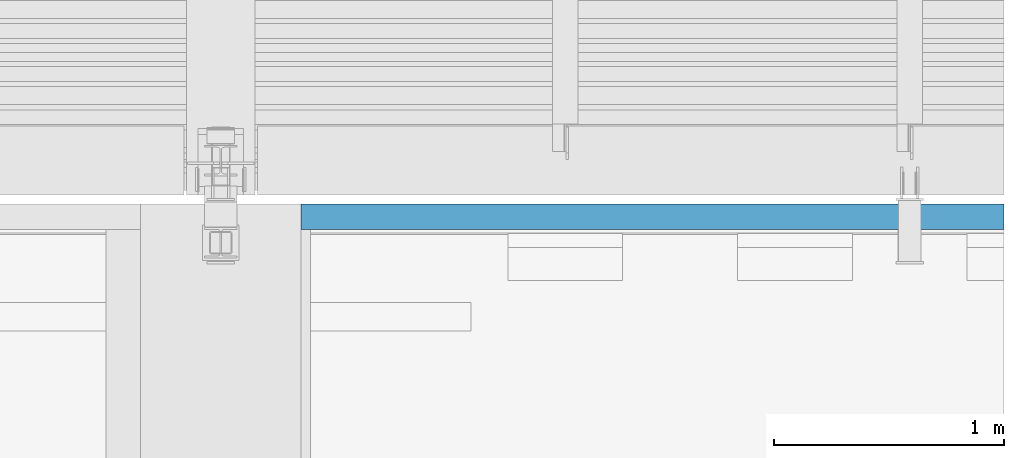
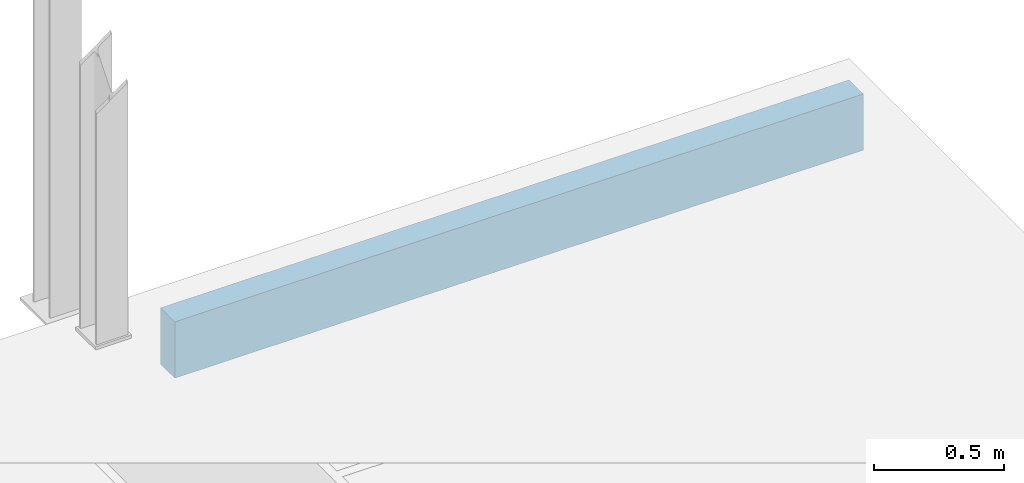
# One storey, part 34 of 34: 1 slab.
"""IFC2X3 building model written with IfcOpenShell, lengths in millimetres."""

from ifc_helpers import new_model, entity, si_unit, converted_unit, derived_unit, direction, frame, origin_with_axes, place, context, subcontext, project, spatial, faceted_brep, type_object, element, save


model = new_model("IFC2X3")

# Units and contexts
model_context = context("Model", 3, precision=0.01, world=frame((0.0, 4.29681676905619e-09, 0.0)), true_north=direction((4.01073788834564e-13, 1.0)))
plan_context = context("Plan", 3, precision=0.01, world=frame((0.0, 4.29681676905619e-09, 0.0)), true_north=direction((4.01073788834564e-13, 1.0)))
body_context = subcontext(model_context, "Body", "Model", "MODEL_VIEW")
ifc_project = project(units=[converted_unit("PLANEANGLEUNIT", "DEGREE", entity("IfcPositiveLengthMeasure", 0.0174532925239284), si_unit("PLANEANGLEUNIT", "RADIAN"), dimensions=[0, 0, 0, 0, 0, 0, 0]), si_unit("AREAUNIT", "SQUARE_METRE"), si_unit("LENGTHUNIT", "METRE", prefix="MILLI"), si_unit("MASSUNIT", "GRAM", prefix="KILO"), si_unit("POWERUNIT", "WATT"), si_unit("PRESSUREUNIT", "PASCAL"), si_unit("FORCEUNIT", "NEWTON", prefix="KILO"), si_unit("ELECTRICVOLTAGEUNIT", "VOLT"), si_unit("ELECTRICCURRENTUNIT", "AMPERE"), si_unit("THERMODYNAMICTEMPERATUREUNIT", "DEGREE_CELSIUS"), si_unit("TIMEUNIT", "SECOND"), si_unit("VOLUMEUNIT", "CUBIC_METRE"), derived_unit("LINEARVELOCITYUNIT", [(si_unit("LENGTHUNIT", "METRE"), 1), (si_unit("TIMEUNIT", "SECOND"), -1)]), derived_unit("VOLUMETRICFLOWRATEUNIT", [(si_unit("VOLUMEUNIT", "CUBIC_METRE"), 1), (si_unit("TIMEUNIT", "SECOND"), -1)]), derived_unit("THERMALTRANSMITTANCEUNIT", [(si_unit("POWERUNIT", "WATT"), 1), (si_unit("THERMODYNAMICTEMPERATUREUNIT", "KELVIN"), -1), (si_unit("AREAUNIT", "SQUARE_METRE"), -1)]), derived_unit("SOUNDPRESSUREUNIT", [(si_unit("PRESSUREUNIT", "PASCAL"), 1)])], contexts=[model_context, plan_context])

# Site, building, storey
site_placement = place(None, frame((0.0, -4.29681676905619e-09, 0.0), z_axis=(0.0, 0.0, 1.0), x_axis=(1.0, 0.0, 0.0)))
site = spatial("IfcSite", under=ifc_project, at=site_placement, Name="Gardermoen", CompositionType="ELEMENT")
building_placement = place(site_placement, frame((0.0, 4.29681676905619e-09, 0.0), z_axis=(0.0, 0.0, 1.0), x_axis=(1.0, 0.0, 0.0)))
building = spatial("IfcBuilding", under=site, at=building_placement, Name="TH", CompositionType="ELEMENT")
storey_placement = place(building_placement, origin_with_axes())
storey = spatial("IfcBuildingStorey", under=building, at=storey_placement, Name="F", CompositionType="ELEMENT", Elevation=0.0)

# Slab
slab_type = type_object("IfcSlabType", Name="265*110", PredefinedType="NOTDEFINED")
slab_placement = place(storey_placement, frame((915649.999531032, 484809.9965625, 209897.5), z_axis=(6.61744490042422e-24, 0.0, 1.0), x_axis=(-1.0, 0.0, 6.61744490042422e-24)))
element("IfcSlab", 1, at=slab_placement, inside=storey, type_object=slab_type, Name="PÅSTØP", ObjectType="265*110", PredefinedType="FLOOR", context=body_context, shape_type="Brep", body=[
    faceted_brep([(5239.41468923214, -6.96737154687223e-07, -132.5), (5239.41468923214, -6.96737154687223e-07, 132.5), (8300.00000000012, -1.10373366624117e-06, 132.5), (8300.00000000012, -1.10373366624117e-06, -132.5), (8300.00000000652, 109.999999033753, 132.5), (8300.00000000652, 109.999999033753, -132.5), (5239.41468923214, 110.000345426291, 132.5), (5239.41468923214, 110.000345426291, -132.5)], [[[0, 1, 2, 3]], [[3, 2, 4, 5]], [[6, 7, 5, 4]], [[7, 0, 3, 5]], [[1, 6, 4, 2]], [[7, 6, 1, 0]]], orient=[[False], [False], [False], [False], [False], [False]]),
])

save(model, "model.ifc")
